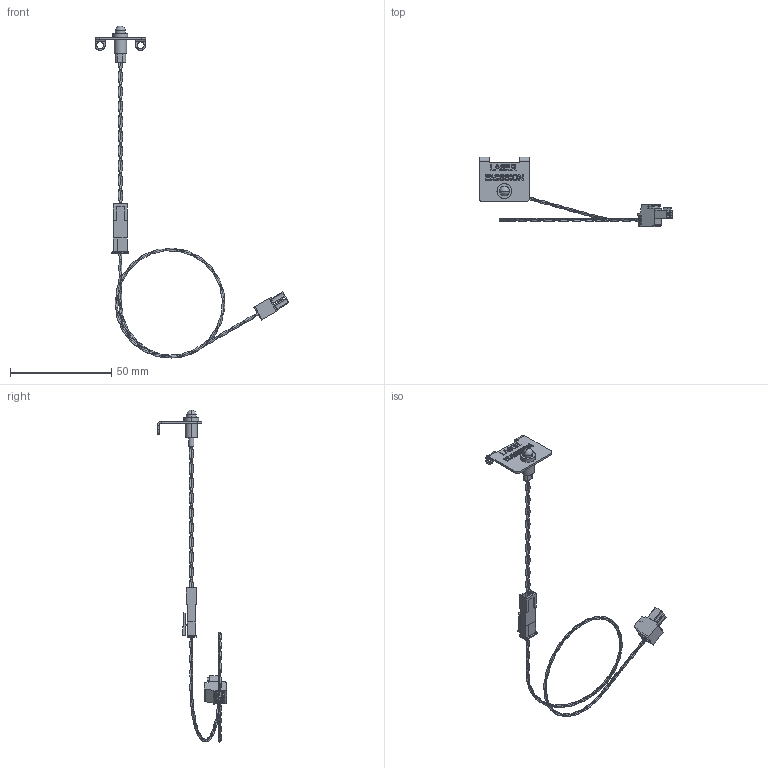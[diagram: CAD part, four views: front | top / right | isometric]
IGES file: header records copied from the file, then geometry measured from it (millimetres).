
Start section: SolidWorks IGES file using analytic representation for surfaces
Global section: file name: N:\POR\Eng\SolidWorksVault\FILES_DAN_LEWIS\Catalog files\OBIS Coherent web site\OBIS Head and Emission Indicator\OBIS Emission Indicator.IGS; native system: SolidWorks 2012; preprocessor: SolidWorks 2012; author: lewisd; date: 120118.135034; units: inch
Bounding box: 95.63 x 34.19 x 163.73 mm (x, y, z)
Surface area: 4954.4 mm2 (no closed solid volume)
Topology: 0 solids, 0 shells, 289 faces, 3870 edges, 3864 vertices
Faces by surface type: bspline 214, revolution 75
